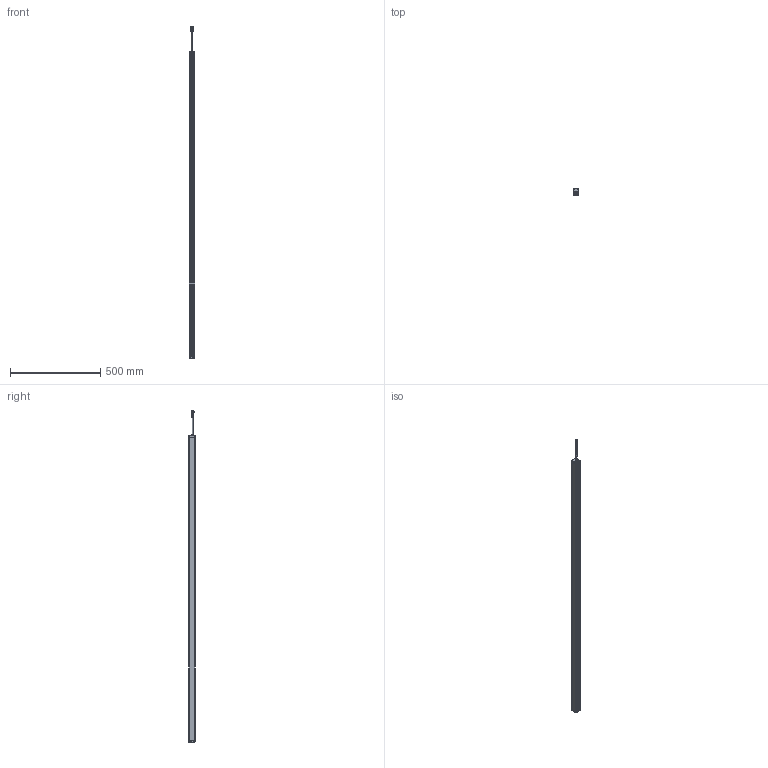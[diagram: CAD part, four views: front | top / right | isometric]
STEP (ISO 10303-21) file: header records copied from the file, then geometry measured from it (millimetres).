
FILE_DESCRIPTION((''),'2;1');
FILE_NAME('PRT0042','2026-03-31T14:09:16',('Administrator'),(''),'CREO PARAMETRIC BY PTC INC, 2016510','CREO PARAMETRIC BY PTC INC, 2016510','');
FILE_SCHEMA(('AUTOMOTIVE_DESIGN { 1 0 10303 214 1 1 1 1 }'));
Length unit declared in the file: millimetre
Products named in the file (1): PRT0042
Bounding box: 33 x 38 x 1841.9 mm (x, y, z)
Surface area: 367447.1 mm2 (no closed solid volume)
Topology: 0 solids, 12 shells, 793 faces, 2086 edges, 1320 vertices
Faces by surface type: plane 384, cylinder 227, extrusion 84, torus 34, sphere 32, cone 28, bspline 4
Entity records: 31106 total; most frequent: CARTESIAN_POINT 5855, ORIENTED_EDGE 4084, DIRECTION 3865, EDGE_CURVE 2042, VERTEX_POINT 1320, AXIS2_PLACEMENT_3D 1307, VECTOR 1251, LINE 1167
